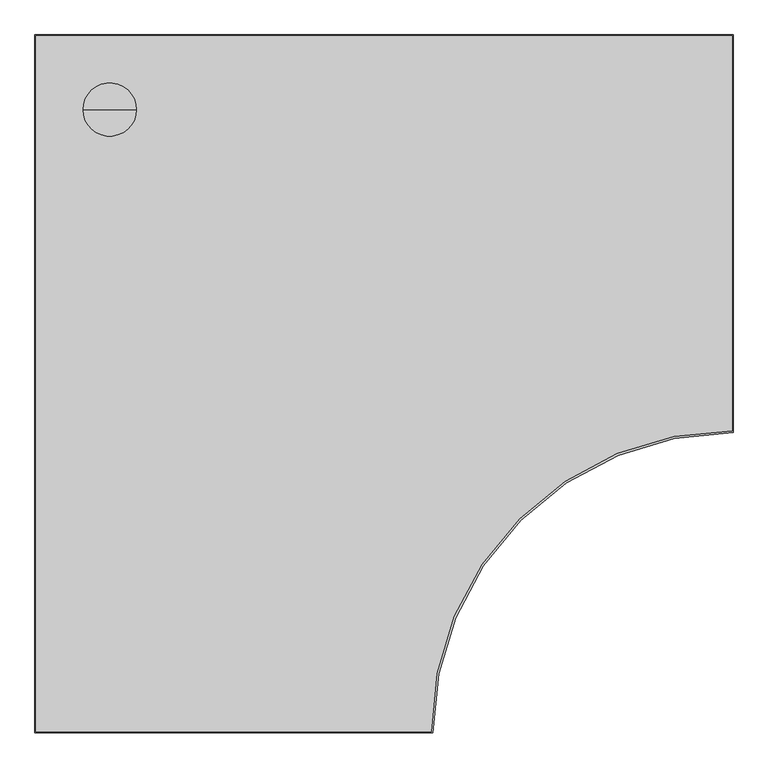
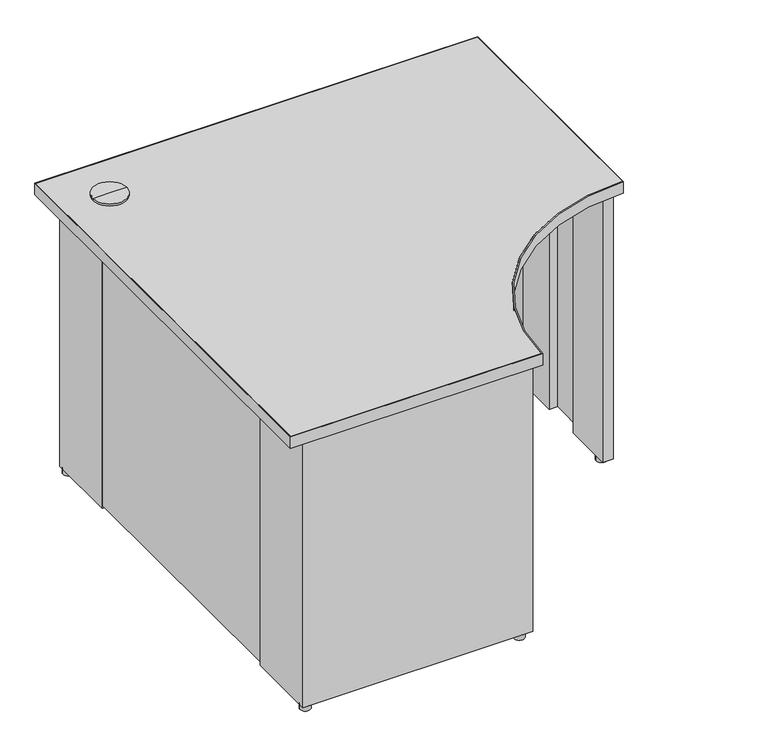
"""IFC4 building model written with IfcOpenShell, lengths in millimetres: furniture geometry, Steelcase - Kick Freestanding - Desk - Curve Corner - Full Height Modesty Panel : 24D x 42W - Two Full Panel - LPL."""

import ifcopenshell
import ifcopenshell.guid

model = None  # the IFC model being written
_history = None  # IfcOwnerHistory: only IFC2X3 demands one
_inside = {}  # id of a spatial element -> (the spatial element, [elements in it])
_under = {}  # id of a project, library or spatial element -> (it, [spatial elements below it])
_declared = {}  # id of a project -> (the project, [libraries it declares])
_typed = {}  # id of a type object -> (the type object, [elements of that type])
_made_of = {}  # id of a material, layer set ... -> (it, [elements and type objects made of it])


def new_model(schema):
    """Start an empty IFC model of exactly this schema.

    Asked for "IFC4X3", IfcOpenShell would pick the latest addendum, in which some entities
    have other attributes; the version numbers below select the first issue.
    IFC2X3 requires an IfcOwnerHistory on every rooted entity: one is made here for all.
    """
    global model, _history
    if schema == "IFC4X3":
        model = ifcopenshell.file(schema_version=(4, 3, 0, 0))
    else:
        model = ifcopenshell.file(schema=schema)
    _inside.clear()
    _under.clear()
    _declared.clear()
    _typed.clear()
    _made_of.clear()
    _history = None
    if model.schema == "IFC2X3":
        org = make("IfcOrganization", Name="unknown")
        user = make(
            "IfcPersonAndOrganization",
            ThePerson=make("IfcPerson", FamilyName="unknown"),
            TheOrganization=org,
        )
        app = make(
            "IfcApplication",
            ApplicationDeveloper=org,
            Version="unknown",
            ApplicationFullName="unknown",
            ApplicationIdentifier="unknown",
        )
        _history = make(
            "IfcOwnerHistory",
            OwningUser=user,
            OwningApplication=app,
            ChangeAction="ADDED",
            CreationDate=0,
        )
    return model


def make(cls, **values):
    """One entity of the class cls with the attributes given. An attribute that is None is left unset."""
    return model.create_entity(
        cls, **{name: value for name, value in values.items() if value is not None}
    )


def rooted(cls, **values):
    """An entity with a GlobalId (a new one), such as an element, a storey or a relation."""
    return make(cls, GlobalId=ifcopenshell.guid.new(), OwnerHistory=_history, **values)


def si_unit(unit_type, name, prefix=None):
    """IfcSIUnit, for example si_unit("LENGTHUNIT", "METRE", prefix="MILLI")."""
    return make("IfcSIUnit", UnitType=unit_type, Prefix=prefix, Name=name)


def assignment(units):
    """IfcUnitAssignment: the units of a project."""
    return None if units is None else make("IfcUnitAssignment", Units=units)


def point(xyz):
    """IfcCartesianPoint."""
    return None if xyz is None else make("IfcCartesianPoint", Coordinates=xyz)


def direction(xyz):
    """IfcDirection."""
    return None if xyz is None else make("IfcDirection", DirectionRatios=xyz)


def frame(location, z_axis=None, x_axis=None):
    """IfcAxis2Placement3D, a coordinate frame: its origin and axes. An axis left out is left unset."""
    return make(
        "IfcAxis2Placement3D",
        Location=point(location),
        Axis=direction(z_axis),
        RefDirection=direction(x_axis),
    )


def frame_2d(location, x_axis=None):
    """IfcAxis2Placement2D, a coordinate frame in the plane: its origin and x axis."""
    return make(
        "IfcAxis2Placement2D", Location=point(location), RefDirection=direction(x_axis)
    )


def origin():
    """The frame at (0, 0, 0) with its axes left unset."""
    return frame((0.0, 0.0, 0.0))


def origin_with_axes():
    """The frame at (0, 0, 0) with the z axis (0, 0, 1) and the x axis (1, 0, 0) written out."""
    return frame((0.0, 0.0, 0.0), z_axis=(0.0, 0.0, 1.0), x_axis=(1.0, 0.0, 0.0))


def place(relative_to, where):
    """IfcLocalPlacement: puts the frame where relative to a parent placement (None: the world)."""
    return make(
        "IfcLocalPlacement", PlacementRelTo=relative_to, RelativePlacement=where
    )


def context(
    kind, dimensions, precision=None, world=None, true_north=None, identifier=None
):
    """IfcGeometricRepresentationContext, for example the 3D "Model" context."""
    return make(
        "IfcGeometricRepresentationContext",
        ContextIdentifier=identifier,
        ContextType=kind,
        CoordinateSpaceDimension=dimensions,
        Precision=precision,
        WorldCoordinateSystem=world,
        TrueNorth=true_north,
    )


def project(units=None, contexts=None):
    """IfcProject with its units and contexts."""
    return rooted(
        "IfcProject",
        Name="project",
        RepresentationContexts=contexts,
        UnitsInContext=assignment(units),
    )


def spatial(cls, under=None, at=None, **own):
    """A site, building, storey or space (cls), placed at a placement, below another one or the project."""
    s = rooted(cls, ObjectPlacement=at, **own)
    if under is not None:
        _under.setdefault(under.id(), (under, []))[1].append(s)
    return s


def polyline(points):
    """IfcPolyline through the points."""
    return make("IfcPolyline", Points=[point(p) for p in points])


def circle_curve(where, radius):
    """IfcCircle in the frame where."""
    return make("IfcCircle", Position=where, Radius=radius)


def trimmed(basis, trim1, trim2, sense, master):
    """IfcTrimmedCurve: the piece of a basis curve between two trims."""
    return make(
        "IfcTrimmedCurve",
        BasisCurve=basis,
        Trim1=trim1,
        Trim2=trim2,
        SenseAgreement=sense,
        MasterRepresentation=master,
    )


def segment(curve, same_sense, transition):
    """IfcCompositeCurveSegment."""
    return make(
        "IfcCompositeCurveSegment",
        Transition=transition,
        SameSense=same_sense,
        ParentCurve=curve,
    )


def composite_curve(segments, self_intersect=None):
    """IfcCompositeCurve: segments joined end to end."""
    return make("IfcCompositeCurve", Segments=segments, SelfIntersect=self_intersect)


def outline(outer, holes=None, kind="AREA"):
    """IfcArbitraryClosedProfileDef: a profile drawn as a closed curve; with holes, ...WithVoids."""
    if holes is None:
        return make("IfcArbitraryClosedProfileDef", ProfileType=kind, OuterCurve=outer)
    return make(
        "IfcArbitraryProfileDefWithVoids",
        ProfileType=kind,
        OuterCurve=outer,
        InnerCurves=holes,
    )


def extrude(swept, where, along, depth):
    """IfcExtrudedAreaSolid: the profile swept, set in the frame where, extruded along a direction by depth."""
    return make(
        "IfcExtrudedAreaSolid",
        SweptArea=swept,
        Position=where,
        ExtrudedDirection=direction(along),
        Depth=depth,
    )


def shape(context_of_items, identifier, shape_type, items):
    """IfcShapeRepresentation: the items that make up one representation, for example the "Body"."""
    return make(
        "IfcShapeRepresentation",
        ContextOfItems=context_of_items,
        RepresentationIdentifier=identifier,
        RepresentationType=shape_type,
        Items=items,
    )


def source(mapping_origin, context_of_items, identifier, shape_type, items):
    """IfcRepresentationMap: a shape defined once, which mapped items show again and again."""
    return make(
        "IfcRepresentationMap",
        MappingOrigin=mapping_origin,
        MappedRepresentation=shape(context_of_items, identifier, shape_type, items),
    )


def transform(
    local_origin,
    x_axis=None,
    y_axis=None,
    z_axis=None,
    scale=None,
    scale2=None,
    scale3=None,
    uniform=True,
):
    """IfcCartesianTransformationOperator3D, or its non-uniform kind. x_axis, y_axis, z_axis: its Axis1, 2, 3."""
    if uniform:
        return make(
            "IfcCartesianTransformationOperator3D",
            Axis1=direction(x_axis),
            Axis2=direction(y_axis),
            LocalOrigin=point(local_origin),
            Scale=scale,
            Axis3=direction(z_axis),
        )
    return make(
        "IfcCartesianTransformationOperator3DnonUniform",
        Axis1=direction(x_axis),
        Axis2=direction(y_axis),
        LocalOrigin=point(local_origin),
        Scale=scale,
        Axis3=direction(z_axis),
        Scale2=scale2,
        Scale3=scale3,
    )


def mapped(mapping_source, mapping_target):
    """IfcMappedItem: shows the shape of a source again, moved by a transform."""
    return make(
        "IfcMappedItem", MappingSource=mapping_source, MappingTarget=mapping_target
    )


def made_of(thing, what):
    """Note that an element or type object is made of a material, layer set ...; save() writes the relation."""
    if what is not None:
        _made_of.setdefault(what.id(), (what, []))[1].append(thing)
    return thing


def element(
    cls,
    number,
    at=None,
    inside=None,
    cuts=None,
    type_object=None,
    material=None,
    context=None,
    identifier="Body",
    shape_type=None,
    held_by="IfcProductDefinitionShape",
    body=None,
    shapes=None,
    **own,
):
    """One element of the class cls, such as IfcWall. Its Tag is "e" and its number.

    at: its placement. inside: the storey or other place that contains it. cuts: it is an
    opening in that element (IfcRelVoidsElement). A single representation is given by context,
    identifier, shape_type and body (its items); several are given by shapes. held_by: the class
    of the entity that holds the representations. save() writes the other relations.
    """
    e = rooted(cls, Tag="e%d" % number, ObjectPlacement=at, **own)
    if body is not None:
        shapes = [shape(context, identifier, shape_type, body)]
    if shapes is not None:
        e.Representation = make(held_by, Representations=shapes)
    if inside is not None:
        _inside.setdefault(inside.id(), (inside, []))[1].append(e)
    if cuts is not None:
        rooted(
            "IfcRelVoidsElement", RelatingBuildingElement=cuts, RelatedOpeningElement=e
        )
    if type_object is not None:
        _typed.setdefault(type_object.id(), (type_object, []))[1].append(e)
    return made_of(e, material)


def aggregate(whole, parts):
    """IfcRelAggregates: a whole, such as a stair, and the parts it consists of."""
    return rooted("IfcRelAggregates", RelatingObject=whole, RelatedObjects=parts)


def save(model, path):
    """Write the relations noted so far, then the file.

    IfcRelAggregates (storeys below a building ...), IfcRelContainedInSpatialStructure (elements
    in a storey), IfcRelDefinesByType, IfcRelAssociatesMaterial and IfcRelDeclares: one each for
    every whole, place, type object, material and project.
    """
    for whole, parts in _under.values():
        aggregate(whole, parts)
    for where, things in _inside.values():
        rooted(
            "IfcRelContainedInSpatialStructure",
            RelatedElements=things,
            RelatingStructure=where,
        )
    for kind, things in _typed.values():
        rooted("IfcRelDefinesByType", RelatedObjects=things, RelatingType=kind)
    for what, things in _made_of.values():
        rooted("IfcRelAssociatesMaterial", RelatedObjects=things, RelatingMaterial=what)
    for by, libraries in _declared.values():
        rooted("IfcRelDeclares", RelatingContext=by, RelatedDefinitions=libraries)
    model.write(path)


def plane_surface(at):
    """IfcPlane: the flat surface through the origin of the frame at, square to its z axis."""
    return make("IfcPlane", Position=at)


def cylinder_surface(at, radius):
    """IfcCylindricalSurface: all points at the distance radius from the z axis of the frame at."""
    return make("IfcCylindricalSurface", Position=at, Radius=radius)


def advanced_brep(points, edges, surfaces, faces):
    """IfcAdvancedBrep: a solid bounded by faces that lie on surfaces and meet in shared edges.

    An edge is (start, end): straight between two places in points (the first is 0);
    or (start, end, curve); or (start, end, curve, False) where it runs against its curve.
    A face is (place in surfaces, loops), or (place, loops, False) where it looks against
    its surface's normal. A loop lists edges by number (the first is 1), with a minus sign
    where the edge is run from its end to its start. The first loop is the outer one.
    """
    corners = [point(p) for p in points]
    vertices = [make("IfcVertexPoint", VertexGeometry=c) for c in corners]
    made = []
    for start, end, *more in edges:
        made.append(
            make(
                "IfcEdgeCurve",
                EdgeStart=vertices[start],
                EdgeEnd=vertices[end],
                EdgeGeometry=more[0] if more else make("IfcPolyline", Points=[corners[start], corners[end]]),
                SameSense=more[1] if len(more) > 1 else True,
            )
        )
    hull = []
    for where, loops, *sense in faces:
        bounds = []
        for j, loop in enumerate(loops):
            ring = [make("IfcOrientedEdge", EdgeElement=made[abs(k) - 1], Orientation=k > 0) for k in loop]
            bounds.append(
                make(
                    "IfcFaceOuterBound" if j == 0 else "IfcFaceBound",
                    Bound=make("IfcEdgeLoop", EdgeList=ring),
                    Orientation=True,
                )
            )
        hull.append(make("IfcAdvancedFace", Bounds=bounds, FaceSurface=surfaces[where], SameSense=sense[0] if sense else True))
    return make("IfcAdvancedBrep", Outer=make("IfcClosedShell", CfsFaces=hull))


def furniture_20f75815(model_context):
    return source(origin(), model_context, "Body", "SolidModel", [
        extrude(outline(composite_curve([segment(trimmed(circle_curve(frame_2d((1038.8853521, -565.8064761)), 12.7), [point((1026.1853521, -565.8064761))], [point((1051.5853521, -565.8064761))], False, "CARTESIAN"), True, "CONTINUOUS"), segment(trimmed(circle_curve(frame_2d((1038.8853521, -565.8064761)), 12.7), [point((1051.5853521, -565.8064761))], [point((1026.1853521, -565.8064761))], False, "CARTESIAN"), True, "CONTINUOUS")], self_intersect=False)), origin_with_axes(), (0.0, 0.0, 1.0), 12.446),
        extrude(outline(composite_curve([segment(trimmed(circle_curve(frame_2d((566.7971133, -1039.8759893)), 12.7), [point((554.0971133, -1039.8759893))], [point((579.4971133, -1039.8759893))], False, "CARTESIAN"), True, "CONTINUOUS"), segment(trimmed(circle_curve(frame_2d((566.7971133, -1039.8759893)), 12.7), [point((579.4971133, -1039.8759893))], [point((554.0971133, -1039.8759893))], False, "CARTESIAN"), True, "CONTINUOUS")], self_intersect=False)), origin_with_axes(), (0.0, 0.0, 1.0), 12.446),
        extrude(outline(polyline([(215.8999939, -63.5), (63.5, -63.5), (63.5, -215.8999939), (38.1, -215.8999939), (38.1, -38.1), (215.8999939, -38.1), (215.8999939, -63.5)])), frame((0.0, 0.0, 12.446), z_axis=(0.0, 0.0, 1.0), x_axis=(1.0, 0.0, 0.0)), (0.0, 0.0, 1.0), 682.498),
        extrude(outline(polyline([(63.5, -875.0300194), (63.5, -1027.4300194), (161.3662, -1027.4300194), (161.3662, -1047.0895822), (261.0866, -1047.0895822), (261.0866, -1027.4300194), (369.824, -1027.4300194), (369.824, -1047.0895822), (469.5444, -1047.0895822), (469.5444, -1027.4300194), (592.582, -1027.4300194), (592.582, -1052.8299952), (38.1, -1052.8299952), (38.1, -875.0300194), (63.5, -875.0300194)])), frame((0.0, 0.0, 12.446), z_axis=(0.0, 0.0, 1.0), x_axis=(1.0, 0.0, 0.0)), (0.0, 0.0, 1.0), 682.498),
        extrude(outline(polyline([(874.0393822, -63.5), (874.0393822, -38.1), (1051.8393579, -38.1), (1051.8393579, -592.582), (1025.9313463, -592.582), (1025.9313463, -469.5444), (1046.098945, -469.5444), (1046.098945, -369.824), (1025.9313463, -369.824), (1025.9313463, -261.0866), (1046.098945, -261.0866), (1046.098945, -161.3662), (1025.9313463, -161.3662), (1025.9313463, -63.5), (874.0393822, -63.5)])), frame((0.0, 0.0, 12.446), z_axis=(0.0, 0.0, 1.0), x_axis=(1.0, 0.0, 0.0)), (0.0, 0.0, 1.0), 682.498),
        advanced_brep(
        [(114.3, -114.3, 728.98), (154.94, -114.3, 728.98), (73.66, -114.3, 728.98), (76.1699693, -114.3, 694.944), (152.4300307, -114.3, 694.944), (114.3, -114.3, 694.944), (76.1699693, -114.3, 723.9), (152.4300307, -114.3, 723.9), (73.66, -114.3, 723.9), (154.94, -114.3, 723.9)],
        [
            (0, 1),
            (1, 2, circle_curve(frame((114.3, -114.3, 728.98), z_axis=(0.0, 0.0, 1.0), x_axis=(1.0, 0.0, 0.0)), 40.64)),
            (2, 0),
            (2, 1, circle_curve(frame((114.3, -114.3, 728.98), z_axis=(0.0, 0.0, 1.0), x_axis=(1.0, 0.0, 0.0)), 40.64)),
            (3, 4, circle_curve(frame((114.3, -114.3, 694.944), z_axis=(0.0, 0.0, -1.0), x_axis=(1.0, 0.0, 0.0)), 38.1300307)),
            (4, 5),
            (5, 3),
            (4, 3, circle_curve(frame((114.3, -114.3, 694.944), z_axis=(0.0, 0.0, -1.0), x_axis=(1.0, 0.0, 0.0)), 38.1300307)),
            (6, 7, circle_curve(frame((114.3, -114.3, 723.9), z_axis=(0.0, 0.0, -1.0), x_axis=(1.0, 0.0, 0.0)), 38.1300307)),
            (7, 4),
            (3, 6),
            (7, 6, circle_curve(frame((114.3, -114.3, 723.9), z_axis=(0.0, 0.0, -1.0), x_axis=(1.0, 0.0, 0.0)), 38.1300307)),
            (8, 9, circle_curve(frame((114.3, -114.3, 723.9), z_axis=(0.0, 0.0, -1.0), x_axis=(1.0, 0.0, 0.0)), 40.64)),
            (9, 7),
            (6, 8),
            (9, 8, circle_curve(frame((114.3, -114.3, 723.9), z_axis=(0.0, 0.0, -1.0), x_axis=(1.0, 0.0, 0.0)), 40.64)),
            (1, 9),
            (8, 2),
        ],
        [
            plane_surface(frame((114.3, -114.3, 728.98), z_axis=(0.0, 0.0, 1.0), x_axis=(1.0, 0.0, 0.0))),
            plane_surface(frame((114.3, -114.3, 694.944), z_axis=(0.0, 0.0, -1.0), x_axis=(1.0, 0.0, 0.0))),
            cylinder_surface(frame((114.3, -114.3, 728.98), z_axis=(0.0, 0.0, 1.0), x_axis=(1.0, 0.0, 0.0)), 38.1300307),
            plane_surface(frame((114.3, -114.3, 723.9), z_axis=(0.0, 0.0, -1.0), x_axis=(1.0, 0.0, 0.0))),
            cylinder_surface(frame((114.3, -114.3, 728.98), z_axis=(0.0, 0.0, 1.0), x_axis=(1.0, 0.0, 0.0)), 40.64),
        ],
        [
            (0, [[1, 2, 3]]),
            (0, [[-3, 4, -1]]),
            (1, [[5, 6, 7]]),
            (1, [[8, -7, -6]]),
            (2, [[9, 10, -5, 11]]),
            (2, [[12, -11, -8, -10]]),
            (3, [[13, 14, -9, 15]]),
            (3, [[16, -15, -12, -14]]),
            (4, [[-2, 17, -13, 18]]),
            (4, [[-4, -18, -16, -17]]),
        ],
    ),
        extrude(outline(composite_curve([segment(trimmed(circle_curve(frame_2d((50.8, -50.8)), 12.7), [point((38.1, -50.8))], [point((63.5, -50.8))], False, "CARTESIAN"), True, "CONTINUOUS"), segment(trimmed(circle_curve(frame_2d((50.8, -50.8)), 12.7), [point((63.5, -50.8))], [point((38.1, -50.8))], False, "CARTESIAN"), True, "CONTINUOUS")], self_intersect=False)), origin_with_axes(), (0.0, 0.0, 1.0), 12.446),
        extrude(outline(composite_curve([segment(trimmed(circle_curve(frame_2d((50.8, -1040.1300073)), 12.7484998), [point((38.0515002, -1040.1300073))], [point((63.5484998, -1040.1300073))], False, "CARTESIAN"), True, "CONTINUOUS"), segment(trimmed(circle_curve(frame_2d((50.8, -1040.1300073)), 12.7484998), [point((63.5484998, -1040.1300073))], [point((38.0515002, -1040.1300073))], False, "CARTESIAN"), True, "CONTINUOUS")], self_intersect=False)), origin_with_axes(), (0.0, 0.0, 1.0), 12.446),
        extrude(outline(composite_curve([segment(trimmed(circle_curve(frame_2d((1038.8853521, -50.8)), 12.7), [point((1026.1853521, -50.8))], [point((1051.5853521, -50.8))], False, "CARTESIAN"), True, "CONTINUOUS"), segment(trimmed(circle_curve(frame_2d((1038.8853521, -50.8)), 12.7), [point((1051.5853521, -50.8))], [point((1026.1853521, -50.8))], False, "CARTESIAN"), True, "CONTINUOUS")], self_intersect=False)), origin_with_axes(), (0.0, 0.0, 1.0), 12.446),
        extrude(outline(polyline([(63.5, -215.8999939), (63.5, -875.0300194), (38.1, -875.0300194), (38.1, -215.8999939), (63.5, -215.8999939)])), frame((0.0, 0.0, 20.828), z_axis=(0.0, 0.0, 1.0), x_axis=(1.0, 0.0, 0.0)), (0.0, 0.0, 1.0), 674.116),
        extrude(outline(polyline([(874.0393822, -38.1), (874.0393822, -63.5), (215.8999939, -63.5), (215.8999939, -38.1), (874.0393822, -38.1)])), frame((0.0, 0.0, 20.828), z_axis=(0.0, 0.0, 1.0), x_axis=(1.0, 0.0, 0.0)), (0.0, 0.0, 1.0), 674.116),
        extrude(outline(composite_curve([segment(polyline([(0.9906, -1065.8093628), (0.9906, -0.9906), (1065.8093628, -0.9906), (1065.8093628, -605.3354109)]), True, "CONTINUOUS"), segment(trimmed(circle_curve(frame_2d((1064.5393458, -1064.5393458)), 459.2056912), [point((1065.8093628, -605.3354109))], [point((605.3354109, -1065.8093628))], True, "CARTESIAN"), True, "CONTINUOUS"), segment(polyline([(605.3354109, -1065.8093628), (0.9906, -1065.8093628)]), True, "CONTINUOUS")], self_intersect=False)), frame((0.0, 0.0, 694.944), z_axis=(0.0, 0.0, 1.0), x_axis=(1.0, 0.0, 0.0)), (0.0, 0.0, 1.0), 28.956),
        extrude(outline(composite_curve([segment(polyline([(1066.8, 0.0), (1066.8, -608.332629)]), True, "CONTINUOUS"), segment(trimmed(circle_curve(frame_2d((1065.529983, -1065.529983)), 457.199118), [point((1066.8, -608.332629))], [point((608.332629, -1066.8))], True, "CARTESIAN"), True, "CONTINUOUS"), segment(polyline([(608.332629, -1066.8), (0.0, -1066.8), (0.0, 0.0), (1066.8, 0.0)]), True, "CONTINUOUS")], self_intersect=False), holes=[composite_curve([segment(polyline([(1065.8093628, -0.9906), (0.9906, -0.9906), (0.9906, -1065.8093628), (605.3354109, -1065.8093628)]), True, "CONTINUOUS"), segment(trimmed(circle_curve(frame_2d((1064.5393458, -1064.5393458)), 459.2056912), [point((605.3354109, -1065.8093628))], [point((1065.8093628, -605.3354109))], False, "CARTESIAN"), True, "CONTINUOUS"), segment(polyline([(1065.8093628, -605.3354109), (1065.8093628, -0.9906)]), True, "CONTINUOUS")], self_intersect=False)]), frame((0.0, 0.0, 694.944), z_axis=(0.0, 0.0, 1.0), x_axis=(1.0, 0.0, 0.0)), (0.0, 0.0, 1.0), 28.956),
    ])


if __name__ == "__main__":
    model = new_model("IFC4")
    model_context = context("Model", 3, world=origin())
    ifc_project = project(units=[si_unit("LENGTHUNIT", "METRE", prefix="MILLI")], contexts=[model_context])
    site = spatial("IfcSite", under=ifc_project)
    building = spatial("IfcBuilding", under=site)
    placement = place(None, origin())
    furniture_shape = furniture_20f75815(model_context)
    element("IfcFurniture", 1, ObjectType="Steelcase - Kick Freestanding - Desk - Curve Corner - Full Height Modesty Panel : 24D x 42W - Two Full Panel - LPL", at=placement, inside=building, context=model_context, shape_type="MappedRepresentation", body=[
        mapped(furniture_shape, transform((0.0, 0.0, 0.0), x_axis=(1.0, 0.0, 0.0), y_axis=(0.0, 1.0, 0.0), z_axis=(0.0, 0.0, 1.0))),
    ])
    save(model, "model.ifc")
